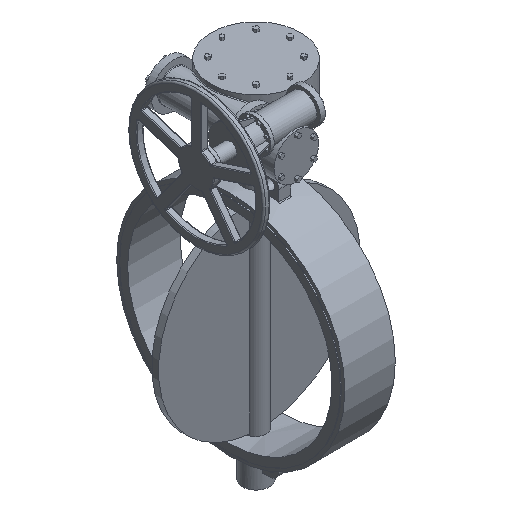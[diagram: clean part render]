
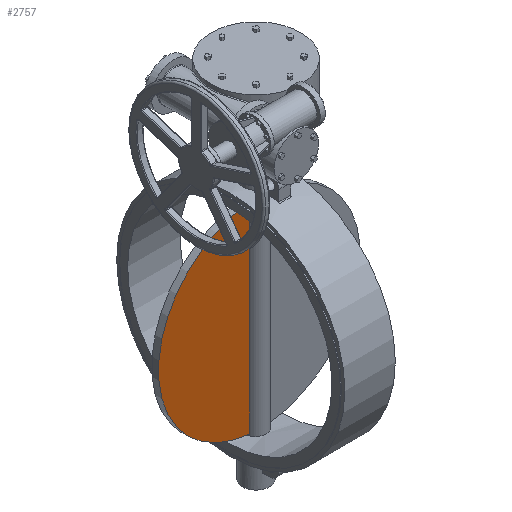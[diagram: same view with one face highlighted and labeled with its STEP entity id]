
A CAD part, isometric view. The second image highlights one B-rep face of the part: STEP entity #2757.
In plain terms, the highlighted planar face has unit normal (0, -1, 0).
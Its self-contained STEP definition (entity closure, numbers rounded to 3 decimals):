
#2757=ADVANCED_FACE('',(#8337),#8339,.T.);
#8337=FACE_BOUND('',#8338,.T.);
#8338=EDGE_LOOP('',(#11948,#11949));
#8339=PLANE('',#8340);
#8340=AXIS2_PLACEMENT_3D('',#8341,#8342,#8343);
#8341=CARTESIAN_POINT('',(0.,-10.,0.));
#8342=DIRECTION('',(0.,-1.,0.));
#8343=DIRECTION('',(0.,0.,1.));
#11948=ORIENTED_EDGE('',*,*,#14032,.T.);
#11949=ORIENTED_EDGE('',*,*,#14076,.T.);
#14032=EDGE_CURVE('',#15944,#15941,#15945,.F.);
#14076=EDGE_CURVE('',#15941,#15944,#16028,.T.);
#15941=VERTEX_POINT('',#21850);
#15944=VERTEX_POINT('',#21895);
#15945=LINE('',#21896,#21897);
#16028=CIRCLE('',#22112,296.25);
#21850=CARTESIAN_POINT('',(-28.284,-10.,294.897));
#21895=CARTESIAN_POINT('',(-28.284,-10.,-294.897));
#21896=CARTESIAN_POINT('',(-28.284,-10.,294.897));
#21897=VECTOR('',#21898,1.);
#21898=DIRECTION('',(0.,0.,-1.));
#22112=AXIS2_PLACEMENT_3D('',#22113,#22114,#22115);
#22113=CARTESIAN_POINT('',(0.,-10.,0.));
#22114=DIRECTION('',(0.,-1.,0.));
#22115=DIRECTION('',(-0.095,0.,0.995));
